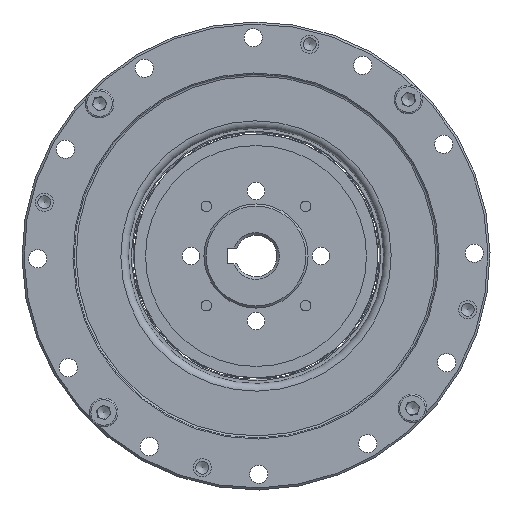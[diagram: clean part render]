
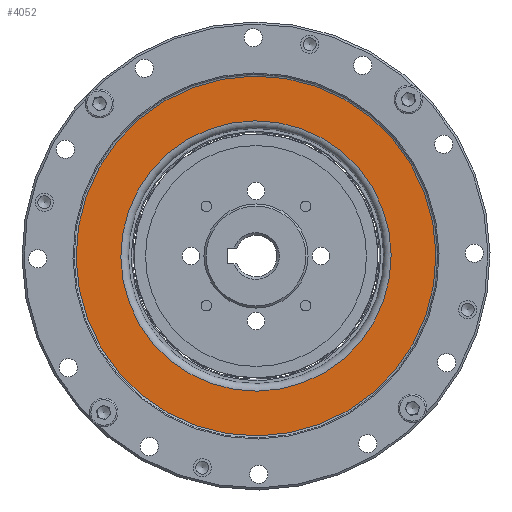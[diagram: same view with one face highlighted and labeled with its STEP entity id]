
A CAD part, left-side view. The second image highlights one B-rep face of the part: STEP entity #4052.
In plain terms, the highlighted planar face has unit normal (-1, 0, 0).
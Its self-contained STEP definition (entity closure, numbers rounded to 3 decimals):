
#320 = CARTESIAN_POINT ( 'NONE',  ( -10.701, 0.457, 34.597 ) ) ;
#407 = DIRECTION ( 'NONE',  ( -1., 0., 0. ) ) ;
#530 = EDGE_LOOP ( 'NONE', ( #17464 ) ) ;
#1121 = AXIS2_PLACEMENT_3D ( 'NONE', #11281, #9931, #3023 ) ;
#1900 = CARTESIAN_POINT ( 'NONE',  ( -10.701, -34.597, 0.457 ) ) ;
#2399 = DIRECTION ( 'NONE',  ( 0., -1., 0.013 ) ) ;
#2781 = CARTESIAN_POINT ( 'NONE',  ( -10.701, -25.991, 0.343 ) ) ;
#2856 = CIRCLE ( 'NONE', #1121, 25.993 ) ;
#3023 = DIRECTION ( 'NONE',  ( 0., -1., 0.013 ) ) ;
#3179 = ORIENTED_EDGE ( 'NONE', *, *, #9766, .T. ) ;
#4052 = ADVANCED_FACE ( 'NONE', ( #4988, #7371 ), #8736, .T. ) ;
#4988 = FACE_OUTER_BOUND ( 'NONE', #14193, .T. ) ;
#5812 = CIRCLE ( 'NONE', #12767, 34.6 ) ;
#7371 = FACE_BOUND ( 'NONE', #530, .T. ) ;
#8395 = VERTEX_POINT ( 'NONE', #2781 ) ;
#8736 = PLANE ( 'NONE',  #10526 ) ;
#9766 = EDGE_CURVE ( 'NONE', #11767, #11767, #5812, .T. ) ;
#9931 = DIRECTION ( 'NONE',  ( -1., 0., 0. ) ) ;
#10526 = AXIS2_PLACEMENT_3D ( 'NONE', #320, #407, #10539 ) ;
#10539 = DIRECTION ( 'NONE',  ( 0., -1., 0.013 ) ) ;
#11281 = CARTESIAN_POINT ( 'NONE',  ( -10.701, 0., 0. ) ) ;
#11767 = VERTEX_POINT ( 'NONE', #1900 ) ;
#11973 = EDGE_CURVE ( 'NONE', #8395, #8395, #2856, .T. ) ;
#12767 = AXIS2_PLACEMENT_3D ( 'NONE', #14887, #16362, #2399 ) ;
#14193 = EDGE_LOOP ( 'NONE', ( #3179 ) ) ;
#14887 = CARTESIAN_POINT ( 'NONE',  ( -10.701, 0., 0. ) ) ;
#16362 = DIRECTION ( 'NONE',  ( -1., 0., 0. ) ) ;
#17464 = ORIENTED_EDGE ( 'NONE', *, *, #11973, .F. ) ;
